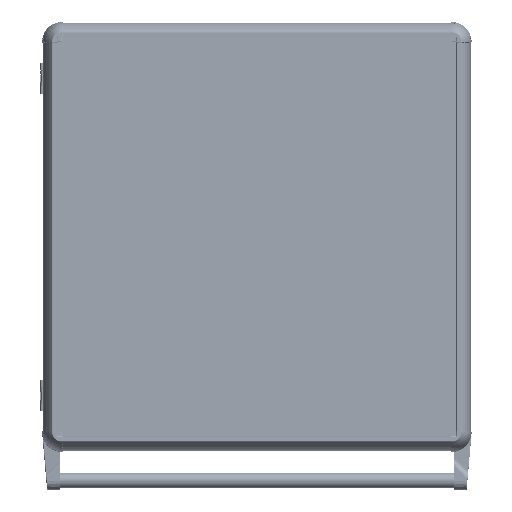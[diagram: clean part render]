
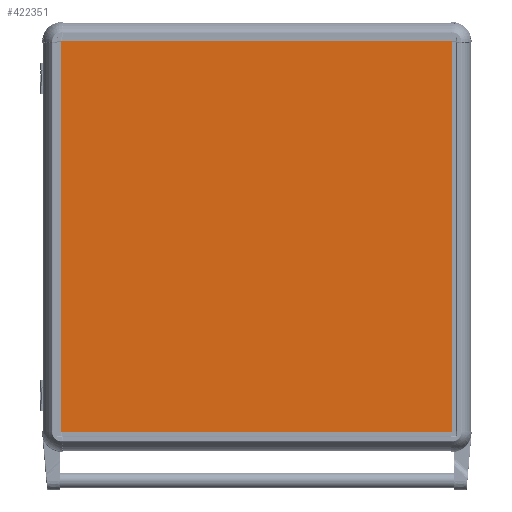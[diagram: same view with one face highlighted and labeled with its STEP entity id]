
A CAD part, top view. The second image highlights one B-rep face of the part: STEP entity #422351.
In plain terms, the highlighted planar face has unit normal (0, 0, 1).
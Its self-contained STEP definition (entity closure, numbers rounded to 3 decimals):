
#5287 = LINE ( 'NONE', #7386, #129615 ) ;
#7386 = CARTESIAN_POINT ( 'NONE',  ( -250., -250., 2. ) ) ;
#33882 = ORIENTED_EDGE ( 'NONE', *, *, #105057, .T. ) ;
#39521 = FACE_OUTER_BOUND ( 'NONE', #232342, .T. ) ;
#48753 = VECTOR ( 'NONE', #144724, 1000. ) ;
#80717 = EDGE_CURVE ( 'NONE', #270794, #92653, #377757, .T. ) ;
#92653 = VERTEX_POINT ( 'NONE', #174050 ) ;
#94915 = ORIENTED_EDGE ( 'NONE', *, *, #80717, .T. ) ;
#101547 = EDGE_CURVE ( 'NONE', #310915, #270794, #5287, .T. ) ;
#101984 = DIRECTION ( 'NONE',  ( 1., 0., 0. ) ) ;
#105057 = EDGE_CURVE ( 'NONE', #92653, #256474, #176843, .T. ) ;
#109803 = CARTESIAN_POINT ( 'NONE',  ( -250., 250., 2. ) ) ;
#119238 = ORIENTED_EDGE ( 'NONE', *, *, #316554, .T. ) ;
#129615 = VECTOR ( 'NONE', #400868, 1000. ) ;
#129873 = VECTOR ( 'NONE', #241807, 1000. ) ;
#138542 = ORIENTED_EDGE ( 'NONE', *, *, #101547, .T. ) ;
#140515 = AXIS2_PLACEMENT_3D ( 'NONE', #166844, #303088, #101984 ) ;
#144724 = DIRECTION ( 'NONE',  ( 0., -1., 0. ) ) ;
#146866 = CARTESIAN_POINT ( 'NONE',  ( -250., 250., 2. ) ) ;
#166844 = CARTESIAN_POINT ( 'NONE',  ( 0., 0., 2. ) ) ;
#174050 = CARTESIAN_POINT ( 'NONE',  ( 250., 250., 2. ) ) ;
#176843 = LINE ( 'NONE', #109803, #129873 ) ;
#177133 = LINE ( 'NONE', #146866, #48753 ) ;
#205999 = CARTESIAN_POINT ( 'NONE',  ( -250., -250., 2. ) ) ;
#213355 = CARTESIAN_POINT ( 'NONE',  ( 250., 250., 2. ) ) ;
#229688 = VECTOR ( 'NONE', #317062, 1000. ) ;
#232342 = EDGE_LOOP ( 'NONE', ( #94915, #33882, #119238, #138542 ) ) ;
#241807 = DIRECTION ( 'NONE',  ( -1., 0., 0. ) ) ;
#256474 = VERTEX_POINT ( 'NONE', #269538 ) ;
#258936 = CARTESIAN_POINT ( 'NONE',  ( 250., -250., 2. ) ) ;
#268539 = PLANE ( 'NONE',  #140515 ) ;
#269538 = CARTESIAN_POINT ( 'NONE',  ( -250., 250., 2. ) ) ;
#270794 = VERTEX_POINT ( 'NONE', #258936 ) ;
#303088 = DIRECTION ( 'NONE',  ( 0., 0., 1. ) ) ;
#310915 = VERTEX_POINT ( 'NONE', #205999 ) ;
#316554 = EDGE_CURVE ( 'NONE', #256474, #310915, #177133, .T. ) ;
#317062 = DIRECTION ( 'NONE',  ( 0., 1., 0. ) ) ;
#377757 = LINE ( 'NONE', #213355, #229688 ) ;
#400868 = DIRECTION ( 'NONE',  ( 1., 0., 0. ) ) ;
#422351 = ADVANCED_FACE ( 'NONE', ( #39521 ), #268539, .T. ) ;
